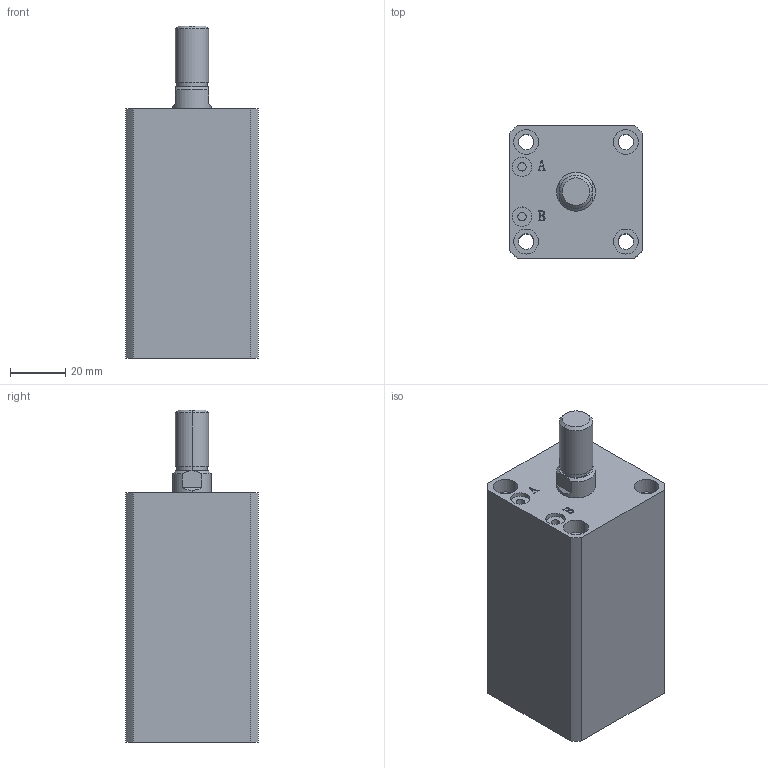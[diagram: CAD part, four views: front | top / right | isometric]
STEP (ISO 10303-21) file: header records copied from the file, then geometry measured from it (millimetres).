
FILE_DESCRIPTION (( 'STEP AP203' ), '1' );
FILE_NAME ('HTB-SDMA25-45W.STEP', '2019-10-07T10:54:19', ( '微软用户' ), ( '微软中国' ), 'SwSTEP 2.0', 'SolidWorks 2012', '' );
FILE_SCHEMA (( 'CONFIG_CONTROL_DESIGN' ));
Length unit declared in the file: millimetre
Products named in the file (3): HTB-SDMA25-45W; HTB-SDMA25-45W活塞杆; HTB-SDMA25-45掛极
Assembly tree (2 placements, depth 2):
  HTB-SDMA25-45W
    HTB-SDMA25-45掛极
    HTB-SDMA25-45W活塞杆
Bounding box: 48 x 48 x 120 mm (x, y, z)
Volume: 183538.3 mm3; surface area: 40776.5 mm2
Topology: 2 solids, 2 shells, 141 faces, 335 edges, 220 vertices
Faces by surface type: plane 67, cylinder 48, bspline 16, torus 6, cone 4
Entity records: 5178 total; most frequent: CARTESIAN_POINT 1609, ORIENTED_EDGE 670, DIRECTION 667, EDGE_CURVE 335, AXIS2_PLACEMENT_3D 242, VERTEX_POINT 220, LINE 183, VECTOR 183
